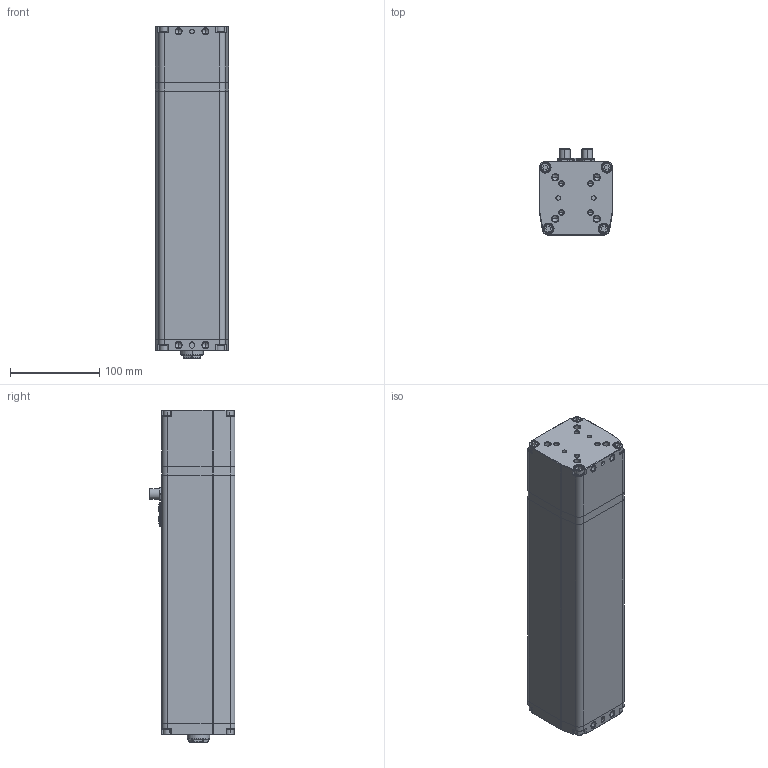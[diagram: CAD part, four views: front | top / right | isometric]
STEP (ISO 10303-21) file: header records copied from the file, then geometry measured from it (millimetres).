
FILE_DESCRIPTION (( 'STEP AP203' ), '1' );
FILE_NAME ('CTC-080-K__-____-_.step', '2023-09-29T09:50:56', ( '' ), ( '' ), 'SwSTEP 2.0', 'SolidWorks 2020', '' );
FILE_SCHEMA (( 'CONFIG_CONTROL_DESIGN' ));
Length unit declared in the file: millimetre
Products named in the file (4): CTC-080-K__-____-_; CTC-080_Schubrohr_Hub 0200; CTC-080_Aufsatz-I_M10; CTC-080_housing_Hub_0200
Assembly tree (3 placements, depth 2):
  CTC-080-K__-____-_
    CTC-080_housing_Hub_0200
    CTC-080_Schubrohr_Hub 0200
    CTC-080_Aufsatz-I_M10
Bounding box: 82 x 96.3 x 372 mm (x, y, z)
Volume: 2189155 mm3; surface area: 278596.7 mm2
Topology: 30 solids, 30 shells, 794 faces, 1773 edges, 1092 vertices
Faces by surface type: cylinder 305, plane 297, cone 116, torus 68, sphere 8
Entity records: 22301 total; most frequent: DIRECTION 4133, CARTESIAN_POINT 3791, ORIENTED_EDGE 3478, EDGE_CURVE 1739, AXIS2_PLACEMENT_3D 1630, VERTEX_POINT 1092, EDGE_LOOP 889, LINE 873
